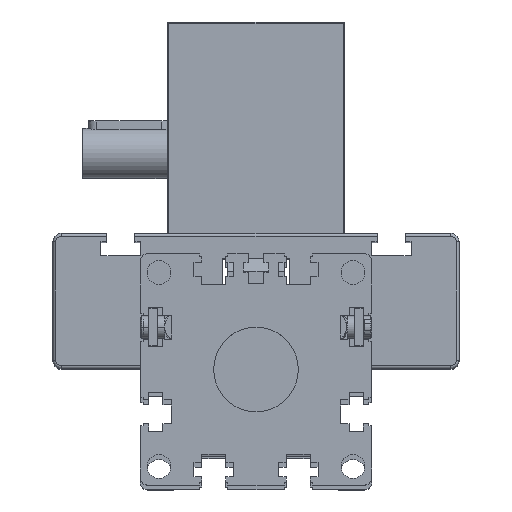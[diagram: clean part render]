
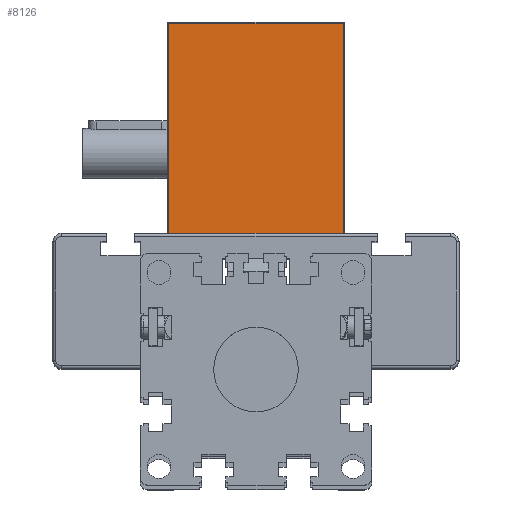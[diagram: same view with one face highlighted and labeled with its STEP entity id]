
A CAD part, top view. The second image highlights one B-rep face of the part: STEP entity #8126.
In plain terms, the highlighted planar face has unit normal (0, 0, 1) as drawn and (-1, 0, 0) by its records, which use the part's own axes.
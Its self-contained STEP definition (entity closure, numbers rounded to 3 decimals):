
#1095 = DIRECTION ( 'NONE',  ( 0., 1., 0. ) ) ;
#3342 = CARTESIAN_POINT ( 'NONE',  ( -65., -31., 0. ) ) ;
#3931 = DIRECTION ( 'NONE',  ( 0., 1., 0. ) ) ;
#4101 = LINE ( 'NONE', #14721, #28162 ) ;
#4120 = CARTESIAN_POINT ( 'NONE',  ( -65., -31., 74.5 ) ) ;
#4550 = EDGE_CURVE ( 'NONE', #28805, #30816, #14126, .T. ) ;
#7429 = DIRECTION ( 'NONE',  ( 1., 0., 0. ) ) ;
#7756 = DIRECTION ( 'NONE',  ( 0., 0., -1. ) ) ;
#8126 = ADVANCED_FACE ( 'NONE', ( #26260 ), #23369, .F. ) ;
#8255 = EDGE_CURVE ( 'NONE', #29343, #21763, #4101, .T. ) ;
#8485 = DIRECTION ( 'NONE',  ( 0., 0., -1. ) ) ;
#9776 = EDGE_LOOP ( 'NONE', ( #29111, #14882, #24342, #21040 ) ) ;
#14126 = LINE ( 'NONE', #14475, #19637 ) ;
#14475 = CARTESIAN_POINT ( 'NONE',  ( -65., -31.5, 74.5 ) ) ;
#14537 = EDGE_CURVE ( 'NONE', #30816, #21763, #24086, .T. ) ;
#14721 = CARTESIAN_POINT ( 'NONE',  ( -65., -31.5, 0. ) ) ;
#14882 = ORIENTED_EDGE ( 'NONE', *, *, #14537, .T. ) ;
#16041 = DIRECTION ( 'NONE',  ( 0., 0., 1. ) ) ;
#17200 = CARTESIAN_POINT ( 'NONE',  ( -65., 31., 0. ) ) ;
#17371 = CARTESIAN_POINT ( 'NONE',  ( -65., -31., 0. ) ) ;
#19637 = VECTOR ( 'NONE', #1095, 1000. ) ;
#20627 = CARTESIAN_POINT ( 'NONE',  ( -65., -31.5, 0. ) ) ;
#21040 = ORIENTED_EDGE ( 'NONE', *, *, #33656, .T. ) ;
#21763 = VERTEX_POINT ( 'NONE', #17200 ) ;
#23369 = PLANE ( 'NONE',  #31282 ) ;
#23918 = CARTESIAN_POINT ( 'NONE',  ( -65., 31., 0. ) ) ;
#24086 = LINE ( 'NONE', #23918, #24722 ) ;
#24342 = ORIENTED_EDGE ( 'NONE', *, *, #8255, .F. ) ;
#24722 = VECTOR ( 'NONE', #8485, 1000. ) ;
#26260 = FACE_OUTER_BOUND ( 'NONE', #9776, .T. ) ;
#27598 = CARTESIAN_POINT ( 'NONE',  ( -65., 31., 74.5 ) ) ;
#28162 = VECTOR ( 'NONE', #3931, 1000. ) ;
#28805 = VERTEX_POINT ( 'NONE', #4120 ) ;
#29111 = ORIENTED_EDGE ( 'NONE', *, *, #4550, .T. ) ;
#29343 = VERTEX_POINT ( 'NONE', #17371 ) ;
#29559 = LINE ( 'NONE', #3342, #30295 ) ;
#30295 = VECTOR ( 'NONE', #16041, 1000. ) ;
#30816 = VERTEX_POINT ( 'NONE', #27598 ) ;
#31282 = AXIS2_PLACEMENT_3D ( 'NONE', #20627, #7429, #7756 ) ;
#33656 = EDGE_CURVE ( 'NONE', #29343, #28805, #29559, .T. ) ;
